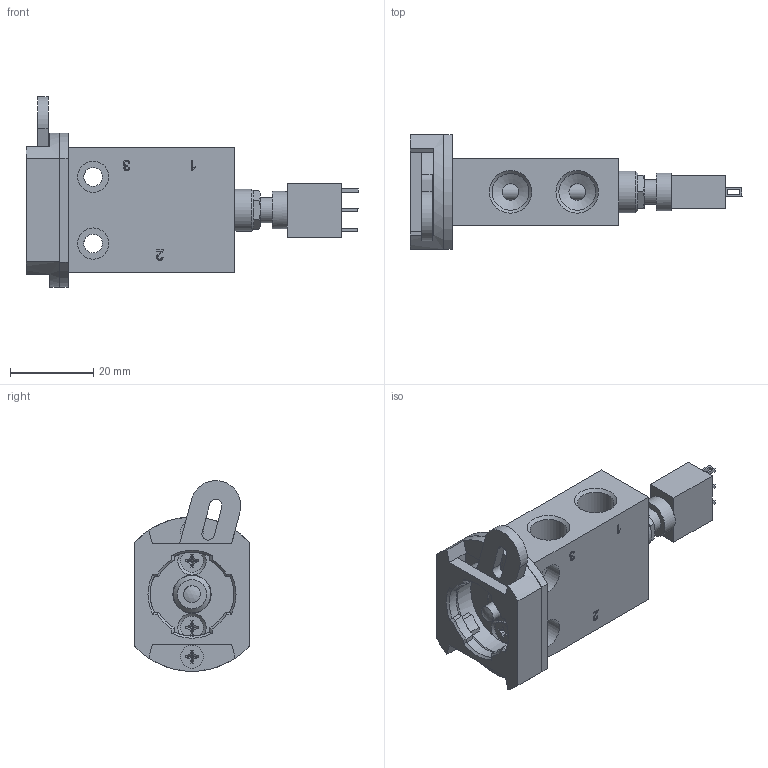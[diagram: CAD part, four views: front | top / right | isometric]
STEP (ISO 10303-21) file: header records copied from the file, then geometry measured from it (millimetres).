
FILE_DESCRIPTION(/* description */ ('Unknown','CAx-IF Rec.Pracs.---Representation and Presentation of Product Manufacturing Information (PMI)---4.0---2014-10-13','CAx-IF Rec.Pracs.---3D Tessellated Geometry---0.4---2014-09-14','2;1'),/* implementation_level */ '2;1');
FILE_NAME(/* name */ 'BAE 311 301',/* time_stamp */ '2020-07-06T08:58:50+02:00',/* author */ ('Unknown'),/* organization */ ('Unknown'),/* preprocessor_version */ 'ST-DEVELOPER v16.7',/* originating_system */ 'DEX',/* authorisation */ $);
FILE_SCHEMA (('AP242_MANAGED_MODEL_BASED_3D_ENGINEERING_MIM_LF { 1 0 10303 442 20130219 1 4 }'));
Length unit declared in the file: millimetre
Products named in the file (2): BAE 311 301
Assembly tree (1 placements, depth 2):
  BAE 311 301
    BAE 311 301
Bounding box: 79.6 x 27.5 x 45.73 mm (x, y, z)
Volume: 22310.2 mm3; surface area: 15862.3 mm2
Topology: 13 solids, 13 shells, 406 faces, 971 edges, 607 vertices
Faces by surface type: plane 246, cylinder 86, cone 53, bspline 16, torus 4, sphere 1
Full cylindrical faces by diameter (mm): 2.459 x4, 2.8 x1, 3 x4, 3.1 x2, 3.2 x2, 4 x5, 4.05 x1, 4.5 x2, 5.188 x1, 5.5 x7, 5.6 x2, 6 x2, 7 x1, 7.5 x4, 8 x1, 8.05 x1, 8.06 x1, 8.8 x6, 9 x2, 9.2 x1, 10 x1, 20.1 x1, 24 x1
Entity records: 13671 total; most frequent: CARTESIAN_POINT 2784, DIRECTION 1796, ORIENTED_EDGE 1670, EDGE_CURVE 835, AXIS2_PLACEMENT_3D 634, EDGE_LOOP 568, FACE_BOUND 568, VERTEX_POINT 565
